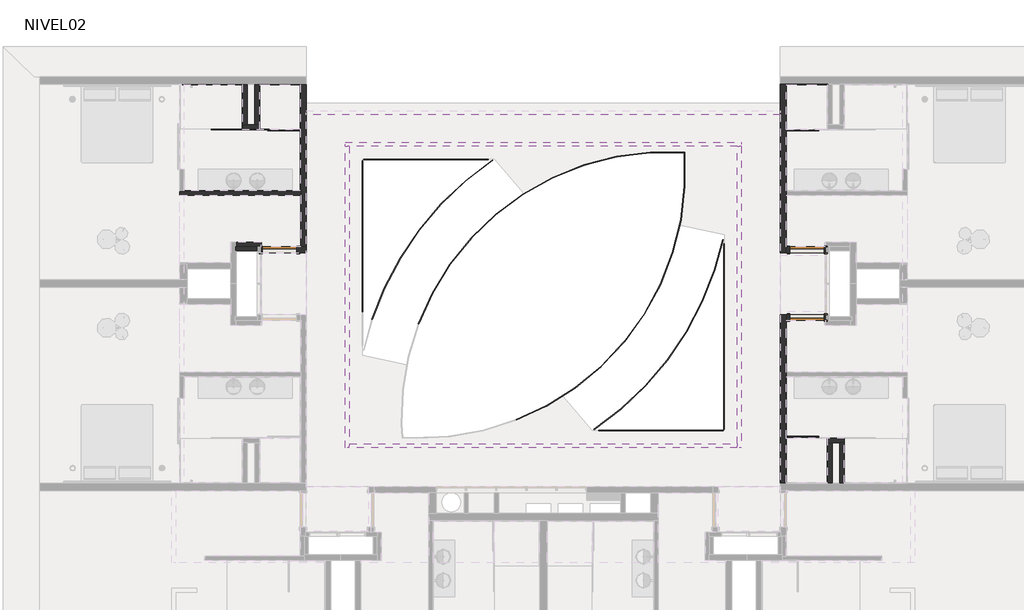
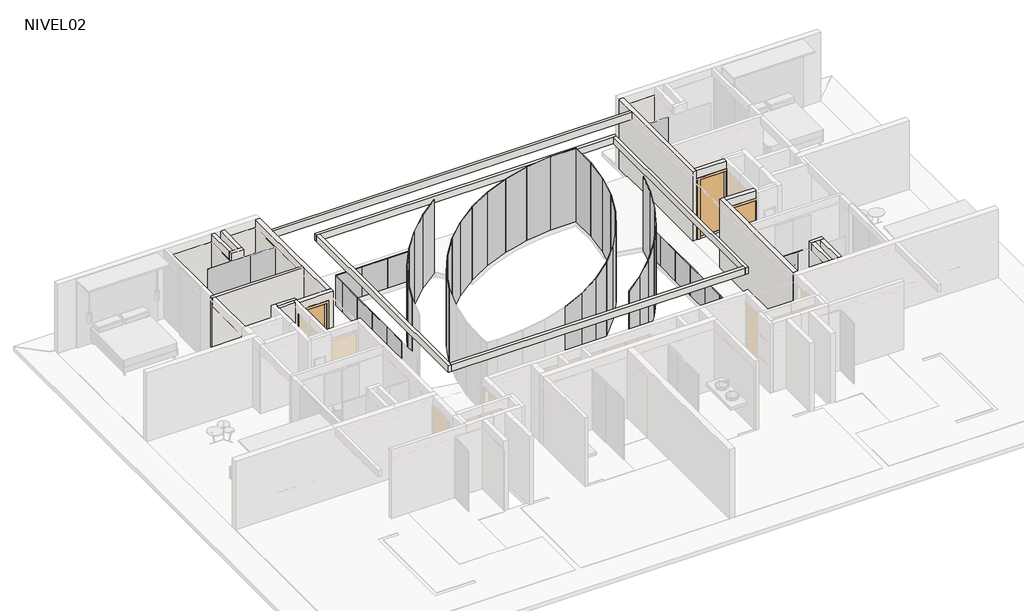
# One storey, part 6 of 9: 56 plates, 31 walls, 3 doors.
"""IFC4 building model written with IfcOpenShell, lengths in millimetres."""

from ifc_helpers import new_model, si_unit, frame, origin, place, context, project, spatial, polyline, outline, extrude, faceted_brep, transform, mapped, element, save
from components import m_single_flush_910x_224_a4f79d59, m_single_flush_910x_224_d199ccfa, panel_corredera_cr_panel_corredera_1cb9417a, panel_corredera_cr_panel_corredera_99e605cf, system_panel_5ccbd7a3, system_panel_34dc83f9, system_panel_bb99d6db, system_panel_8f9a12f6, system_panel_d16f8cfc, system_panel_c363a63a, system_panel_cr_shower_402713e2

model = new_model("IFC4")

# Units and contexts
model_context = context("Model", 3, world=origin())
ifc_project = project(units=[si_unit("LENGTHUNIT", "METRE", prefix="MILLI")], contexts=[model_context])

# Site, building, storey
site = spatial("IfcSite", under=ifc_project)
building = spatial("IfcBuilding", under=site)
storey = spatial("IfcBuildingStorey", under=building, Name="NIVEL02", Elevation=2500.0)

# Doors
placement = place(None, origin())
m_single_flush_910x_224_shape = m_single_flush_910x_224_a4f79d59(model_context)
element("IfcDoor", 1, ObjectType="M_Single-Flush : 910x 224", at=placement, inside=storey, context=model_context, shape_type="MappedRepresentation", body=[
    mapped(m_single_flush_910x_224_shape, transform((-14191.0934748, 6033.9139241, 2500.0), x_axis=(1.0, 0.0, 0.0), y_axis=(0.0, 1.0, 0.0), z_axis=(0.0, 0.0, 1.0))),
])
element("IfcDoor", 2, ObjectType="M_Single-Flush : 910x 224", at=placement, inside=storey, context=model_context, shape_type="MappedRepresentation", body=[
    mapped(m_single_flush_910x_224_shape, transform((-176.0934748, 4233.9139241, 2500.0), x_axis=(-1.0, 0.0, 0.0), y_axis=(0.0, -1.0, 0.0), z_axis=(0.0, 0.0, 1.0))),
])
m_single_flush_910x_224_2_shape = m_single_flush_910x_224_d199ccfa(model_context)
element("IfcDoor", 3, ObjectType="M_Single-Flush : 910x 224", at=placement, inside=storey, context=model_context, shape_type="MappedRepresentation", body=[
    mapped(m_single_flush_910x_224_2_shape, transform((-176.0934748, 6033.9139241, 2500.0), x_axis=(-1.0, 0.0, 0.0), y_axis=(0.0, -1.0, 0.0), z_axis=(0.0, 0.0, 1.0))),
])

# Plates
panel_corredera_cr_panel_corredera_shape = panel_corredera_cr_panel_corredera_1cb9417a(model_context)
element("IfcPlate", 4, ObjectType="PANEL CORREDERA : CR_PANEL CORREDERA", at=placement, inside=storey, context=model_context, shape_type="MappedRepresentation", body=[
    mapped(panel_corredera_cr_panel_corredera_shape, transform((-372.2601415, 9233.9139241, 2500.0), x_axis=(1.0, 0.0, 0.0), y_axis=(0.0, 1.0, 0.0), z_axis=(0.0, 0.0, 1.0))),
])
panel_corredera_cr_panel_corredera_2_shape = panel_corredera_cr_panel_corredera_99e605cf(model_context)
element("IfcPlate", 5, ObjectType="PANEL CORREDERA : CR_PANEL CORREDERA", at=placement, inside=storey, context=model_context, shape_type="MappedRepresentation", body=[
    mapped(panel_corredera_cr_panel_corredera_2_shape, transform((-13994.9268082, 9233.9139241, 2500.0), x_axis=(-1.0, 0.0, 0.0), y_axis=(0.0, -1.0, 0.0), z_axis=(0.0, 0.0, 1.0))),
])
element("IfcPlate", 6, ObjectType="PANEL CORREDERA : CR_PANEL CORREDERA", at=placement, inside=storey, context=model_context, shape_type="MappedRepresentation", body=[
    mapped(panel_corredera_cr_panel_corredera_2_shape, transform((-372.2601415, 1033.9139241, 2500.0), x_axis=(1.0, 0.0, 0.0), y_axis=(0.0, 1.0, 0.0), z_axis=(0.0, 0.0, 1.0))),
])
system_panel_shape = system_panel_5ccbd7a3(model_context)
element("IfcPlate", 7, ObjectType="System Panel : CR-BARANDA", at=placement, inside=storey, context=model_context, shape_type="MappedRepresentation", body=[
    mapped(system_panel_shape, transform((-2383.5934748, 5738.757085, 2500.0), x_axis=(0.0, -1.0, 0.0), y_axis=(1.0, 0.0, 0.0), z_axis=(0.0, 0.0, 1.0))),
])
element("IfcPlate", 8, ObjectType="System Panel : CR-BARANDA", at=placement, inside=storey, context=model_context, shape_type="MappedRepresentation", body=[
    mapped(system_panel_shape, transform((-2859.843475, 1233.9139241, 2500.0), x_axis=(-1.0, 0.0, 0.0), y_axis=(0.0, -1.0, 0.0), z_axis=(0.0, 0.0, 1.0))),
])
element("IfcPlate", 9, ObjectType="System Panel : CR-BARANDA", at=placement, inside=storey, context=model_context, shape_type="MappedRepresentation", body=[
    mapped(system_panel_shape, transform((-11507.3434747, 8433.9139241, 2500.0), x_axis=(1.0, 0.0, 0.0), y_axis=(0.0, 1.0, 0.0), z_axis=(0.0, 0.0, 1.0))),
])
element("IfcPlate", 10, ObjectType="System Panel : CR-BARANDA", at=placement, inside=storey, context=model_context, shape_type="MappedRepresentation", body=[
    mapped(system_panel_shape, transform((-3759.8434752, 1233.9139241, 2500.0), x_axis=(-1.0, 0.0, 0.0), y_axis=(0.0, -1.0, 0.0), z_axis=(0.0, 0.0, 1.0))),
])
element("IfcPlate", 11, ObjectType="System Panel : CR-BARANDA", at=placement, inside=storey, context=model_context, shape_type="MappedRepresentation", body=[
    mapped(system_panel_shape, transform((-4659.8434752, 1233.9139241, 2500.0), x_axis=(-1.0, 0.0, 0.0), y_axis=(0.0, -1.0, 0.0), z_axis=(0.0, 0.0, 1.0))),
])
element("IfcPlate", 12, ObjectType="System Panel : CR-BARANDA", at=placement, inside=storey, context=model_context, shape_type="MappedRepresentation", body=[
    mapped(system_panel_shape, transform((-2383.5934748, 4838.7570848, 2500.0), x_axis=(0.0, -1.0, 0.0), y_axis=(1.0, 0.0, 0.0), z_axis=(0.0, 0.0, 1.0))),
])
element("IfcPlate", 13, ObjectType="System Panel : CR-BARANDA", at=placement, inside=storey, context=model_context, shape_type="MappedRepresentation", body=[
    mapped(system_panel_shape, transform((-2383.5934748, 3938.7570848, 2500.0), x_axis=(0.0, -1.0, 0.0), y_axis=(1.0, 0.0, 0.0), z_axis=(0.0, 0.0, 1.0))),
])
element("IfcPlate", 14, ObjectType="System Panel : CR-BARANDA", at=placement, inside=storey, context=model_context, shape_type="MappedRepresentation", body=[
    mapped(system_panel_shape, transform((-2383.5934748, 3038.7570848, 2500.0), x_axis=(0.0, -1.0, 0.0), y_axis=(1.0, 0.0, 0.0), z_axis=(0.0, 0.0, 1.0))),
])
element("IfcPlate", 15, ObjectType="System Panel : CR-BARANDA", at=placement, inside=storey, context=model_context, shape_type="MappedRepresentation", body=[
    mapped(system_panel_shape, transform((-2383.5934748, 2138.7570848, 2500.0), x_axis=(0.0, -1.0, 0.0), y_axis=(1.0, 0.0, 0.0), z_axis=(0.0, 0.0, 1.0))),
])
element("IfcPlate", 16, ObjectType="System Panel : CR-BARANDA", at=placement, inside=storey, context=model_context, shape_type="MappedRepresentation", body=[
    mapped(system_panel_shape, transform((-10607.3434745, 8433.9139241, 2500.0), x_axis=(1.0, 0.0, 0.0), y_axis=(0.0, 1.0, 0.0), z_axis=(0.0, 0.0, 1.0))),
])
element("IfcPlate", 17, ObjectType="System Panel : CR-BARANDA", at=placement, inside=storey, context=model_context, shape_type="MappedRepresentation", body=[
    mapped(system_panel_shape, transform((-9707.3434745, 8433.9139241, 2500.0), x_axis=(1.0, 0.0, 0.0), y_axis=(0.0, 1.0, 0.0), z_axis=(0.0, 0.0, 1.0))),
])
element("IfcPlate", 18, ObjectType="System Panel : CR-BARANDA", at=placement, inside=storey, context=model_context, shape_type="MappedRepresentation", body=[
    mapped(system_panel_shape, transform((-11983.5934748, 4829.0707633, 2500.0), x_axis=(0.0, 1.0, 0.0), y_axis=(-1.0, 0.0, 0.0), z_axis=(0.0, 0.0, 1.0))),
])
element("IfcPlate", 19, ObjectType="System Panel : CR-BARANDA", at=placement, inside=storey, context=model_context, shape_type="MappedRepresentation", body=[
    mapped(system_panel_shape, transform((-11983.5934748, 5729.0707633, 2500.0), x_axis=(0.0, 1.0, 0.0), y_axis=(-1.0, 0.0, 0.0), z_axis=(0.0, 0.0, 1.0))),
])
element("IfcPlate", 20, ObjectType="System Panel : CR-BARANDA", at=placement, inside=storey, context=model_context, shape_type="MappedRepresentation", body=[
    mapped(system_panel_shape, transform((-11983.5934748, 6629.0707633, 2500.0), x_axis=(0.0, 1.0, 0.0), y_axis=(-1.0, 0.0, 0.0), z_axis=(0.0, 0.0, 1.0))),
])
element("IfcPlate", 21, ObjectType="System Panel : CR-BARANDA", at=placement, inside=storey, context=model_context, shape_type="MappedRepresentation", body=[
    mapped(system_panel_shape, transform((-11983.5934748, 7529.0707633, 2500.0), x_axis=(0.0, 1.0, 0.0), y_axis=(-1.0, 0.0, 0.0), z_axis=(0.0, 0.0, 1.0))),
])
system_panel_2_shape = system_panel_34dc83f9(model_context)
element("IfcPlate", 22, ObjectType="System Panel : CR-BARANDA", at=placement, inside=storey, context=model_context, shape_type="MappedRepresentation", body=[
    mapped(system_panel_2_shape, transform((-5412.343475, 1233.9139241, 2500.0), x_axis=(-1.0, 0.0, 0.0), y_axis=(0.0, -1.0, 0.0), z_axis=(0.0, 0.0, 1.0))),
])
element("IfcPlate", 23, ObjectType="System Panel : CR-BARANDA", at=placement, inside=storey, context=model_context, shape_type="MappedRepresentation", body=[
    mapped(system_panel_2_shape, transform((-8954.8434747, 8433.9139241, 2500.0), x_axis=(1.0, 0.0, 0.0), y_axis=(0.0, 1.0, 0.0), z_axis=(0.0, 0.0, 1.0))),
])
system_panel_3_shape = system_panel_bb99d6db(model_context)
element("IfcPlate", 24, ObjectType="System Panel : CR-BARANDA", at=placement, inside=storey, context=model_context, shape_type="MappedRepresentation", body=[
    mapped(system_panel_3_shape, transform((-2383.5934748, 1478.757085, 2500.0), x_axis=(0.0, -1.0, 0.0), y_axis=(1.0, 0.0, 0.0), z_axis=(0.0, 0.0, 1.0))),
])
element("IfcPlate", 25, ObjectType="System Panel : CR-BARANDA", at=placement, inside=storey, context=model_context, shape_type="MappedRepresentation", body=[
    mapped(system_panel_3_shape, transform((-11983.5934748, 8189.0707631, 2500.0), x_axis=(0.0, 1.0, 0.0), y_axis=(-1.0, 0.0, 0.0), z_axis=(0.0, 0.0, 1.0))),
])
system_panel_4_shape = system_panel_8f9a12f6(model_context)
element("IfcPlate", 26, ObjectType="System Panel : CR-BARANDA", at=placement, inside=storey, context=model_context, shape_type="MappedRepresentation", body=[
    mapped(system_panel_4_shape, transform((-3889.1158289, 8621.3139577, 2500.0), x_axis=(-0.9999985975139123, 0.0016748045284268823, 0.0), y_axis=(-0.0016748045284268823, -0.9999985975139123, 0.0), z_axis=(0.0, 0.0, 1.0))),
])
system_panel_5_shape = system_panel_d16f8cfc(model_context)
element("IfcPlate", 27, ObjectType="System Panel : CR-BARANDA", at=placement, inside=storey, context=model_context, shape_type="MappedRepresentation", body=[
    mapped(system_panel_5_shape, transform((-4785.5416487, 8565.4687941, 2500.0), x_axis=(-0.9920587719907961, -0.1257751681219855, 0.0), y_axis=(0.1257751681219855, -0.9920587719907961, 0.0), z_axis=(0.0, 0.0, 1.0))),
])
element("IfcPlate", 28, ObjectType="System Panel : CR-BARANDA", at=placement, inside=storey, context=model_context, shape_type="MappedRepresentation", body=[
    mapped(system_panel_5_shape, transform((-5667.541953, 8395.8415861, 2500.0), x_axis=(-0.9679419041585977, -0.25117418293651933, 0.0), y_axis=(0.25117418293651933, -0.9679419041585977, 0.0), z_axis=(0.0, 0.0, 1.0))),
])
element("IfcPlate", 29, ObjectType="System Panel : CR-BARANDA", at=placement, inside=storey, context=model_context, shape_type="MappedRepresentation", body=[
    mapped(system_panel_5_shape, transform((-6520.7343753, 8115.1983662, 2500.0), x_axis=(-0.9280412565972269, -0.37247741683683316, 0.0), y_axis=(0.37247741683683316, -0.9280412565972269, 0.0), z_axis=(0.0, 0.0, 1.0))),
])
element("IfcPlate", 30, ObjectType="System Panel : CR-BARANDA", at=placement, inside=storey, context=model_context, shape_type="MappedRepresentation", body=[
    mapped(system_panel_5_shape, transform((-7331.2063026, 7728.1154532, 2500.0), x_axis=(-0.8730074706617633, -0.4877068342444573, 0.0), y_axis=(0.4877068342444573, -0.8730074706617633, 0.0), z_axis=(0.0, 0.0, 1.0))),
])
element("IfcPlate", 31, ObjectType="System Panel : CR-BARANDA", at=placement, inside=storey, context=model_context, shape_type="MappedRepresentation", body=[
    mapped(system_panel_5_shape, transform((-8085.741745, 7240.9048287, 2500.0), x_axis=(-0.8037379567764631, -0.5949834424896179, 0.0), y_axis=(0.5949834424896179, -0.8037379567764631, 0.0), z_axis=(0.0, 0.0, 1.0))),
])
element("IfcPlate", 32, ObjectType="System Panel : CR-BARANDA", at=placement, inside=storey, context=model_context, shape_type="MappedRepresentation", body=[
    mapped(system_panel_5_shape, transform((-8772.0368429, 6661.5112103, 2500.0), x_axis=(-0.7213622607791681, -0.6925579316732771, 0.0), y_axis=(0.6925579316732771, -0.7213622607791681, 0.0), z_axis=(0.0, 0.0, 1.0))),
])
element("IfcPlate", 33, ObjectType="System Panel : CR-BARANDA", at=placement, inside=storey, context=model_context, shape_type="MappedRepresentation", body=[
    mapped(system_panel_5_shape, transform((-9378.9005004, 5999.3825011, 2500.0), x_axis=(-0.6272236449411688, -0.7788391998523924, 0.0), y_axis=(0.7788391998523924, -0.6272236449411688, 0.0), z_axis=(0.0, 0.0, 1.0))),
])
element("IfcPlate", 34, ObjectType="System Panel : CR-BARANDA", at=placement, inside=storey, context=model_context, shape_type="MappedRepresentation", body=[
    mapped(system_panel_5_shape, transform((-9896.4368735, 5265.3157269, 2500.0), x_axis=(-0.5228571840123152, -0.8524202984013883, 0.0), y_axis=(0.8524202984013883, -0.5228571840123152, 0.0), z_axis=(0.0, 0.0, 1.0))),
])
element("IfcPlate", 35, ObjectType="System Panel : CR-BARANDA", at=placement, inside=storey, context=model_context, shape_type="MappedRepresentation", body=[
    mapped(system_panel_5_shape, transform((-10316.2067363, 4471.2809741, 2500.0), x_axis=(-0.40996473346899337, -0.9121013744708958, 0.0), y_axis=(0.9121013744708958, -0.40996473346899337, 0.0), z_axis=(0.0, 0.0, 1.0))),
])
element("IfcPlate", 36, ObjectType="System Panel : CR-BARANDA", at=placement, inside=storey, context=model_context, shape_type="MappedRepresentation", body=[
    mapped(system_panel_4_shape, transform((-3433.3235969, 8170.5975795, 2500.0), x_axis=(0.012873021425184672, -0.9999171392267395, 0.0), y_axis=(0.9999171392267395, 0.012873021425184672, 0.0), z_axis=(0.0, 0.0, 1.0))),
])
element("IfcPlate", 37, ObjectType="System Panel : CR-BARANDA", at=placement, inside=storey, context=model_context, shape_type="MappedRepresentation", body=[
    mapped(system_panel_4_shape, transform((-5476.4920391, 1528.1257546, 2500.0), x_axis=(0.7955573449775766, 0.6058782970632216, 0.0), y_axis=(-0.6058782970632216, 0.7955573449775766, 0.0), z_axis=(0.0, 0.0, 1.0))),
])
element("IfcPlate", 38, ObjectType="System Panel : CR-BARANDA", at=placement, inside=storey, context=model_context, shape_type="MappedRepresentation", body=[
    mapped(system_panel_4_shape, transform((-8888.7580194, 8141.1767332, 2500.0), x_axis=(-0.7957364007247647, -0.6056431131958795, 0.0), y_axis=(0.6056431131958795, -0.7957364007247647, 0.0), z_axis=(0.0, 0.0, 1.0))),
])
element("IfcPlate", 39, ObjectType="System Panel : CR-BARANDA", at=placement, inside=storey, context=model_context, shape_type="MappedRepresentation", body=[
    mapped(system_panel_5_shape, transform((-3479.1267798, 7273.6025956, 2500.0), x_axis=(-0.11465787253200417, -0.9934050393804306, 0.0), y_axis=(0.9934050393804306, -0.11465787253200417, 0.0), z_axis=(0.0, 0.0, 1.0))),
])
element("IfcPlate", 40, ObjectType="System Panel : CR-BARANDA", at=placement, inside=storey, context=model_context, shape_type="MappedRepresentation", body=[
    mapped(system_panel_5_shape, transform((-3638.8664144, 6389.7580529, 2500.0), x_axis=(-0.2403190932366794, -0.9706939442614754, 0.0), y_axis=(0.9706939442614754, -0.2403190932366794, 0.0), z_axis=(0.0, 0.0, 1.0))),
])
element("IfcPlate", 41, ObjectType="System Panel : CR-BARANDA", at=placement, inside=storey, context=model_context, shape_type="MappedRepresentation", body=[
    mapped(system_panel_5_shape, transform((-3909.9377002, 5533.4763911, 2500.0), x_axis=(-0.3620615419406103, -0.9321541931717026, 0.0), y_axis=(0.9321541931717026, -0.3620615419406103, 0.0), z_axis=(0.0, 0.0, 1.0))),
])
element("IfcPlate", 42, ObjectType="System Panel : CR-BARANDA", at=placement, inside=storey, context=model_context, shape_type="MappedRepresentation", body=[
    mapped(system_panel_5_shape, transform((-4287.9204035, 4718.720598, 2500.0), x_axis=(-0.4779000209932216, -0.87841423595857, 0.0), y_axis=(0.87841423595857, -0.4779000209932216, 0.0), z_axis=(0.0, 0.0, 1.0))),
])
element("IfcPlate", 43, ObjectType="System Panel : CR-BARANDA", at=placement, inside=storey, context=model_context, shape_type="MappedRepresentation", body=[
    mapped(system_panel_5_shape, transform((-4766.6509357, 3958.7765185, 2500.0), x_axis=(-0.5859456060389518, -0.8103503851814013, 0.0), y_axis=(0.8103503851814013, -0.5859456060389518, 0.0), z_axis=(0.0, 0.0, 1.0))),
])
element("IfcPlate", 44, ObjectType="System Panel : CR-BARANDA", at=placement, inside=storey, context=model_context, shape_type="MappedRepresentation", body=[
    mapped(system_panel_5_shape, transform((-5338.32286, 3266.0362082, 2500.0), x_axis=(-0.6844364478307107, -0.7290725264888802, 0.0), y_axis=(0.7290725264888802, -0.6844364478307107, 0.0), z_axis=(0.0, 0.0, 1.0))),
])
element("IfcPlate", 45, ObjectType="System Panel : CR-BARANDA", at=placement, inside=storey, context=model_context, shape_type="MappedRepresentation", body=[
    mapped(system_panel_5_shape, transform((-5993.6141873, 2651.7958622, 2500.0), x_axis=(-0.7717665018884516, -0.6359060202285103, 0.0), y_axis=(0.6359060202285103, -0.7717665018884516, 0.0), z_axis=(0.0, 0.0, 1.0))),
])
element("IfcPlate", 46, ObjectType="System Panel : CR-BARANDA", at=placement, inside=storey, context=model_context, shape_type="MappedRepresentation", body=[
    mapped(system_panel_5_shape, transform((-6721.8393861, 2126.0716129, 2500.0), x_axis=(-0.8465117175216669, -0.5323700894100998, 0.0), y_axis=(0.5323700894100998, -0.8465117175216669, 0.0), z_axis=(0.0, 0.0, 1.0))),
])
element("IfcPlate", 47, ObjectType="System Panel : CR-BARANDA", at=placement, inside=storey, context=model_context, shape_type="MappedRepresentation", body=[
    mapped(system_panel_5_shape, transform((-7511.1236256, 1697.4362017, 2500.0), x_axis=(-0.9074532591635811, -0.42015304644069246, 0.0), y_axis=(0.42015304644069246, -0.9074532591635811, 0.0), z_axis=(0.0, 0.0, 1.0))),
])
element("IfcPlate", 48, ObjectType="System Panel : CR-BARANDA", at=placement, inside=storey, context=model_context, shape_type="MappedRepresentation", body=[
    mapped(system_panel_5_shape, transform((-4792.328012, 2110.7993037, 2500.0), x_axis=(0.724807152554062, 0.6889518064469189, 0.0), y_axis=(-0.6889518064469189, 0.724807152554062, 0.0), z_axis=(0.0, 0.0, 1.0))),
])
element("IfcPlate", 49, ObjectType="System Panel : CR-BARANDA", at=placement, inside=storey, context=model_context, shape_type="MappedRepresentation", body=[
    mapped(system_panel_5_shape, transform((-4175.7227206, 2764.5475642, 2500.0), x_axis=(0.6454268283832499, 0.7638221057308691, 0.0), y_axis=(-0.7638221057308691, 0.6454268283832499, 0.0), z_axis=(0.0, 0.0, 1.0))),
])
element("IfcPlate", 50, ObjectType="System Panel : CR-BARANDA", at=placement, inside=storey, context=model_context, shape_type="MappedRepresentation", body=[
    mapped(system_panel_5_shape, transform((-3634.0179559, 3481.5864902, 2500.0), x_axis=(0.5583615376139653, 0.8295977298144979, 0.0), y_axis=(-0.8295977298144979, 0.5583615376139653, 0.0), z_axis=(0.0, 0.0, 1.0))),
])
element("IfcPlate", 51, ObjectType="System Panel : CR-BARANDA", at=placement, inside=storey, context=model_context, shape_type="MappedRepresentation", body=[
    mapped(system_panel_5_shape, transform((-3173.6636869, 4253.3784444, 2500.0), x_axis=(0.4646479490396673, 0.8854955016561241, 0.0), y_axis=(-0.8854955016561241, 0.4646479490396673, 0.0), z_axis=(0.0, 0.0, 1.0))),
])
element("IfcPlate", 52, ObjectType="System Panel : CR-BARANDA", at=placement, inside=storey, context=model_context, shape_type="MappedRepresentation", body=[
    mapped(system_panel_5_shape, transform((-2800.1412587, 5070.7338561, 2500.0), x_axis=(0.36540189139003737, 0.9308498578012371, 0.0), y_axis=(-0.9308498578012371, 0.36540189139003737, 0.0), z_axis=(0.0, 0.0, 1.0))),
])
element("IfcPlate", 53, ObjectType="System Panel : CR-BARANDA", at=placement, inside=storey, context=model_context, shape_type="MappedRepresentation", body=[
    mapped(system_panel_5_shape, transform((-9573.0942482, 7558.7054405, 2500.0), x_axis=(-0.7250107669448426, -0.6887375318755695, 0.0), y_axis=(0.6887375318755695, -0.7250107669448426, 0.0), z_axis=(0.0, 0.0, 1.0))),
])
element("IfcPlate", 54, ObjectType="System Panel : CR-BARANDA", at=placement, inside=storey, context=model_context, shape_type="MappedRepresentation", body=[
    mapped(system_panel_5_shape, transform((-10189.892753, 6905.1394698, 2500.0), x_axis=(-0.6456525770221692, -0.7636312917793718, 0.0), y_axis=(0.7636312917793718, -0.6456525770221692, 0.0), z_axis=(0.0, 0.0, 1.0))),
])
element("IfcPlate", 55, ObjectType="System Panel : CR-BARANDA", at=placement, inside=storey, context=model_context, shape_type="MappedRepresentation", body=[
    mapped(system_panel_5_shape, transform((-10731.8094423, 6188.2606967, 2500.0), x_axis=(-0.558606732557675, -0.8294326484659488, 0.0), y_axis=(0.8294326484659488, -0.558606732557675, 0.0), z_axis=(0.0, 0.0, 1.0))),
])
element("IfcPlate", 56, ObjectType="System Panel : CR-BARANDA", at=placement, inside=storey, context=model_context, shape_type="MappedRepresentation", body=[
    mapped(system_panel_5_shape, transform((-11192.3918238, 5416.6048516, 2500.0), x_axis=(-0.4649096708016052, -0.8853581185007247, 0.0), y_axis=(0.8853581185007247, -0.4649096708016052, 0.0), z_axis=(0.0, 0.0, 1.0))),
])
element("IfcPlate", 57, ObjectType="System Panel : CR-BARANDA", at=placement, inside=storey, context=model_context, shape_type="MappedRepresentation", body=[
    mapped(system_panel_5_shape, transform((-11566.1558363, 4599.3598844, 2500.0), x_axis=(-0.36567702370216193, -0.9307418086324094, 0.0), y_axis=(0.9307418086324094, -0.36567702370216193, 0.0), z_axis=(0.0, 0.0, 1.0))),
])
system_panel_6_shape = system_panel_c363a63a(model_context)
element("IfcPlate", 58, ObjectType="System Panel : CR-BARANDA", at=placement, inside=storey, context=model_context, shape_type="MappedRepresentation", body=[
    mapped(system_panel_6_shape, transform((-2523.9277538, 5896.1430611, 2500.0), x_axis=(0.2651295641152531, 0.9642127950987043, 0.0), y_axis=(-0.9642127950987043, 0.2651295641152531, 0.0), z_axis=(0.0, 0.0, 1.0))),
])
system_panel_cr_shower_shape = system_panel_cr_shower_402713e2(model_context)
element("IfcPlate", 59, ObjectType="System Panel : CR-SHOWER", at=placement, inside=storey, context=model_context, shape_type="MappedRepresentation", body=[
    mapped(system_panel_cr_shower_shape, transform((-15178.9268082, 9233.9139241, 2500.0), x_axis=(1.0, 0.0, 0.0), y_axis=(0.0, 1.0, 0.0), z_axis=(0.0, 0.0, 1.0))),
])

# Walls
element("IfcWall", 60, ObjectType="SCV.TI.A.150.120.212.47.1", at=placement, inside=storey, context=model_context, shape_type="Brep", body=[
    faceted_brep([(-733.5934748, -166.0860759, 2480.0), (-733.5934748, 2673.9139241, 2480.0), (-733.5934748, 2783.9139241, 2480.0), (-733.5934748, 4158.9139241, 2480.0), (-733.5934748, 4308.9139241, 2480.0), (-733.5934748, 4308.9139241, 5050.0), (-733.5934748, 4158.9139241, 5050.0), (-733.5934748, 2783.9139241, 5050.0), (-733.5934748, 2673.9139241, 5050.0), (-733.5934748, -166.0860759, 5050.0), (-883.5934748, -166.0860759, 2480.0), (-883.5934748, -166.0860759, 5050.0), (-883.5934748, 4308.9139241, 5050.0), (-883.5934748, 4308.9139241, 2480.0)], [[[0, 1, 2, 3, 4, 5, 6, 7, 8, 9]], [[10, 11, 12, 13]], [[4, 3, 2, 1, 0, 10, 13]], [[9, 8, 7, 6, 5, 12, 11]], [[0, 9, 11, 10]], [[5, 4, 13, 12]]]),
])
element("IfcWall", 61, ObjectType="SCV.TI.A.150.120.212.47.1", at=placement, inside=storey, context=model_context, shape_type="Brep", body=[
    faceted_brep([(-13483.5934748, 6108.9139241, 2480.0), (-13633.5934748, 6108.9139241, 2480.0), (-14673.5934748, 6108.9139241, 2480.0), (-14673.5934748, 6108.9139241, 5050.0), (-13633.5934748, 6108.9139241, 5050.0), (-13483.5934748, 6108.9139241, 5050.0), (-14648.5934748, 6108.9139241, 2500.0), (-13733.5934748, 6108.9139241, 2500.0), (-13733.5934748, 6108.9139241, 4700.0), (-14648.5934748, 6108.9139241, 4700.0), (-14673.5934748, 5958.9139241, 2480.0), (-13483.5934748, 5958.9139241, 2480.0), (-13483.5934748, 5958.9139241, 5050.0), (-14673.5934748, 5958.9139241, 5050.0), (-14673.5934748, 5958.9139241, 4740.0), (-14673.5934748, 5958.9139241, 2500.0), (-13733.5934748, 5958.9139241, 2500.0), (-14648.5934748, 5958.9139241, 2500.0), (-14648.5934748, 5958.9139241, 4700.0), (-13733.5934748, 5958.9139241, 4700.0)], [[[0, 1, 2, 3, 4, 5], [6, 7, 8, 9]], [[10, 11, 12, 13, 14, 15], [16, 17, 18, 19]], [[2, 1, 0, 11, 10]], [[5, 4, 3, 13, 12]], [[6, 17, 16, 7]], [[8, 19, 18, 9]], [[17, 6, 9, 18]], [[19, 8, 7, 16]], [[3, 2, 10, 15, 14, 13]], [[0, 5, 12, 11]]]),
])
element("IfcWall", 62, ObjectType="SCV.TI.A.110.090.143.47.1", at=placement, inside=storey, context=model_context, shape_type="Brep", body=[
    faceted_brep([(-13633.5934748, 7593.9139241, 2480.0), (-16738.5934748, 7593.9139241, 2480.0), (-16848.5934748, 7593.9139241, 2480.0), (-16848.5934748, 7593.9139241, 5050.0), (-16738.5934748, 7593.9139241, 5050.0), (-13633.5934748, 7593.9139241, 5050.0), (-13633.5934748, 7483.9139241, 2480.0), (-13633.5934748, 7483.9139241, 5050.0), (-16738.5934748, 7483.9139241, 5050.0), (-16848.5934748, 7483.9139241, 5050.0), (-16848.5934748, 7483.9139241, 4750.0), (-16848.5934748, 7483.9139241, 2480.0)], [[[0, 1, 2, 3, 4, 5]], [[6, 7, 8, 9, 10, 11]], [[2, 1, 0, 6, 11]], [[5, 4, 3, 9, 8, 7]], [[0, 5, 7, 6]], [[2, 11, 10, 9, 3]]]),
])
element("IfcWall", 63, ObjectType="SCV.TI.A.110.090.143.47.1", at=placement, inside=storey, context=model_context, shape_type="Brep", body=[
    faceted_brep([(-14673.5934748, 6233.9139241, 2480.0), (-15343.5934748, 6233.9139241, 2480.0), (-15343.5934748, 6233.9139241, 5050.0), (-14673.5934748, 6233.9139241, 5050.0), (-14673.5934748, 6123.9139241, 2480.0), (-14673.5934748, 6123.9139241, 5050.0), (-14783.5934748, 6123.9139241, 5050.0), (-15343.5934748, 6123.9139241, 5050.0), (-15343.5934748, 6123.9139241, 2480.0), (-14783.5934748, 6123.9139241, 2480.0)], [[[0, 1, 2, 3]], [[4, 5, 6, 7, 8, 9]], [[1, 0, 4, 9, 8]], [[3, 2, 7, 6, 5]], [[0, 3, 5, 4]], [[2, 1, 8, 7]]]),
])
element("IfcWall", 64, ObjectType="SCV.TI.A.120.120.122.46.2", at=placement, inside=storey, context=model_context, shape_type="SweptSolid", body=[
    extrude(outline(polyline([(-15173.5934748, 9353.9139241), (-15173.5934748, 10433.9139241), (-15053.5934748, 10433.9139241), (-15053.5934748, 9353.9139241), (-15173.5934748, 9353.9139241)])), frame((0.0, 0.0, 2480.0), z_axis=(0.0, 0.0, 1.0), x_axis=(1.0, 0.0, 0.0)), (0.0, 0.0, 1.0), 2570.0),
])
element("IfcWall", 65, ObjectType="SCV.TI.A.120.120.122.46.2", at=placement, inside=storey, context=model_context, shape_type="Brep", body=[
    faceted_brep([(-15173.5934748, 9233.9139241, 2480.0), (-14733.5934748, 9233.9139241, 2480.0), (-14733.5934748, 9233.9139241, 5050.0), (-15173.5934748, 9233.9139241, 5050.0), (-15173.5934748, 9353.9139241, 2480.0), (-15173.5934748, 9353.9139241, 5050.0), (-15053.5934748, 9353.9139241, 5050.0), (-14853.5934748, 9353.9139241, 5050.0), (-14733.5934748, 9353.9139241, 5050.0), (-14733.5934748, 9353.9139241, 2480.0), (-14853.5934748, 9353.9139241, 2480.0), (-15053.5934748, 9353.9139241, 2480.0)], [[[0, 1, 2, 3]], [[4, 5, 6, 7, 8, 9, 10, 11]], [[1, 0, 4, 11, 10, 9]], [[3, 2, 8, 7, 6, 5]], [[2, 1, 9, 8]], [[0, 3, 5, 4]]]),
])
element("IfcWall", 66, ObjectType="SCV.TI.A.120.120.122.46.2", at=placement, inside=storey, context=model_context, shape_type="SweptSolid", body=[
    extrude(outline(polyline([(-14733.5934748, 10433.9139241), (-14733.5934748, 9353.9139241), (-14853.5934748, 9353.9139241), (-14853.5934748, 10433.9139241), (-14733.5934748, 10433.9139241)])), frame((0.0, 0.0, 2480.0), z_axis=(0.0, 0.0, 1.0), x_axis=(1.0, 0.0, 0.0)), (0.0, 0.0, 1.0), 2570.0),
])
element("IfcWall", 67, ObjectType="REV-PORCELANATO_60*60", at=placement, inside=storey, context=model_context, shape_type="Brep", body=[
    faceted_brep([(-13633.5934748, 7603.9139241, 2520.0), (-13643.5934748, 7603.9139241, 2520.0), (-16728.5934748, 7603.9139241, 2520.0), (-16728.5934748, 7603.9139241, 4760.0), (-13643.5934748, 7603.9139241, 4760.0), (-13633.5934748, 7603.9139241, 4760.0), (-13633.5934748, 7593.9139241, 2520.0), (-13633.5934748, 7593.9139241, 4760.0), (-16728.5934748, 7593.9139241, 4760.0), (-16728.5934748, 7593.9139241, 2520.0)], [[[0, 1, 2, 3, 4, 5]], [[6, 7, 8, 9]], [[2, 1, 0, 6, 9]], [[5, 4, 3, 8, 7]], [[0, 5, 7, 6]], [[3, 2, 9, 8]]]),
])
element("IfcWall", 68, ObjectType="REV-PORCELANATO_60*60", at=placement, inside=storey, context=model_context, shape_type="Brep", body=[
    faceted_brep([(-13633.5934748, 7603.9139241, 2520.0), (-13633.5934748, 10433.9139241, 2520.0), (-13633.5934748, 10433.9139241, 4760.0), (-13633.5934748, 7603.9139241, 4760.0), (-13643.5934748, 7603.9139241, 2520.0), (-13643.5934748, 7603.9139241, 4760.0), (-13643.5934748, 10423.9139241, 4760.0), (-13643.5934748, 10433.9139241, 4760.0), (-13643.5934748, 10433.9139241, 2520.0), (-13643.5934748, 10423.9139241, 2520.0)], [[[0, 1, 2, 3]], [[4, 5, 6, 7, 8, 9]], [[1, 0, 4, 9, 8]], [[3, 2, 7, 6, 5]], [[2, 1, 8, 7]], [[0, 3, 5, 4]]]),
])
element("IfcWall", 69, ObjectType="REV-PORCELANATO_60*60", at=placement, inside=storey, context=model_context, shape_type="Brep", body=[
    faceted_brep([(-13643.5934748, 10433.9139241, 2520.0), (-14733.5934748, 10433.9139241, 2520.0), (-14733.5934748, 10433.9139241, 4760.0), (-13643.5934748, 10433.9139241, 4760.0), (-13643.5934748, 10423.9139241, 2520.0), (-13643.5934748, 10423.9139241, 4760.0), (-14723.5934748, 10423.9139241, 4760.0), (-14733.5934748, 10423.9139241, 4760.0), (-14733.5934748, 10423.9139241, 2520.0), (-14723.5934748, 10423.9139241, 2520.0)], [[[0, 1, 2, 3]], [[4, 5, 6, 7, 8, 9]], [[1, 0, 4, 9, 8]], [[3, 2, 7, 6, 5]], [[2, 1, 8, 7]], [[0, 3, 5, 4]]]),
])
element("IfcWall", 70, ObjectType="REV-PORCELANATO_60*60", at=placement, inside=storey, context=model_context, shape_type="SweptSolid", body=[
    extrude(outline(polyline([(-14723.5934748, 10423.9139241), (-14723.5934748, 9233.9139241), (-14733.5934748, 9233.9139241), (-14733.5934748, 10423.9139241), (-14723.5934748, 10423.9139241)])), frame((0.0, 0.0, 2520.0), z_axis=(0.0, 0.0, 1.0), x_axis=(1.0, 0.0, 0.0)), (0.0, 0.0, 1.0), 2240.0),
])
element("IfcWall", 71, ObjectType="REV-PORCELANATO_60*60", at=placement, inside=storey, context=model_context, shape_type="Brep", body=[
    faceted_brep([(-15173.5934748, 9233.9139241, 2500.0), (-15173.5934748, 10433.9139241, 2500.0), (-15173.5934748, 10433.9139241, 4760.0), (-15173.5934748, 9233.9139241, 4760.0), (-15183.5934748, 9233.9139241, 2500.0), (-15183.5934748, 9233.9139241, 4760.0), (-15183.5934748, 10423.9139241, 4760.0), (-15183.5934748, 10433.9139241, 4760.0), (-15183.5934748, 10433.9139241, 2500.0), (-15183.5934748, 10423.9139241, 2500.0)], [[[0, 1, 2, 3]], [[4, 5, 6, 7, 8, 9]], [[1, 0, 4, 9, 8]], [[3, 2, 7, 6, 5]], [[0, 3, 5, 4]], [[2, 1, 8, 7]]]),
])
element("IfcWall", 72, ObjectType="REV-PORCELANATO_60*60", at=placement, inside=storey, context=model_context, shape_type="SweptSolid", body=[
    extrude(outline(polyline([(-16793.5934748, 10433.9139241), (-15183.5934748, 10433.9139241), (-15183.5934748, 10423.9139241), (-16793.5934748, 10423.9139241), (-16793.5934748, 10433.9139241)])), frame((0.0, 0.0, 2500.0), z_axis=(0.0, 0.0, 1.0), x_axis=(1.0, 0.0, 0.0)), (0.0, 0.0, 1.0), 2260.0),
])
element("IfcWall", 73, ObjectType="SCV.TI.A.150.120.212.47.1", at=placement, inside=storey, context=model_context, shape_type="Brep", body=[
    faceted_brep([(-13483.5934748, 6108.9139241, 2480.0), (-13483.5934748, 10433.9139241, 2480.0), (-13483.5934748, 10433.9139241, 5050.0), (-13483.5934748, 9733.9139241, 5050.0), (-13483.5934748, 9623.9139241, 5050.0), (-13483.5934748, 6108.9139241, 5050.0), (-13633.5934748, 6108.9139241, 2480.0), (-13633.5934748, 6108.9139241, 5050.0), (-13633.5934748, 7483.9139241, 5050.0), (-13633.5934748, 7593.9139241, 5050.0), (-13633.5934748, 10433.9139241, 5050.0), (-13633.5934748, 10433.9139241, 2480.0), (-13633.5934748, 7593.9139241, 2480.0), (-13633.5934748, 7483.9139241, 2480.0)], [[[0, 1, 2, 3, 4, 5]], [[6, 7, 8, 9, 10, 11, 12, 13]], [[1, 0, 6, 13, 12, 11]], [[5, 4, 3, 2, 10, 9, 8, 7]], [[2, 1, 11, 10]], [[0, 5, 7, 6]]]),
])
element("IfcWall", 74, ObjectType="SCV.TI.A.150.120.212.47.1", at=placement, inside=storey, context=model_context, shape_type="Brep", body=[
    faceted_brep([(-733.5934748, 5958.9139241, 2480.0), (-733.5934748, 6108.9139241, 2480.0), (-733.5934748, 7483.9139241, 2480.0), (-733.5934748, 7593.9139241, 2480.0), (-733.5934748, 10433.9139241, 2480.0), (-733.5934748, 10433.9139241, 5050.0), (-733.5934748, 7593.9139241, 5050.0), (-733.5934748, 7483.9139241, 5050.0), (-733.5934748, 6108.9139241, 5050.0), (-733.5934748, 5958.9139241, 5050.0), (-883.5934748, 5958.9139241, 2480.0), (-883.5934748, 5958.9139241, 5050.0), (-883.5934748, 9623.9139241, 5050.0), (-883.5934748, 9733.9139241, 5050.0), (-883.5934748, 10433.9139241, 5050.0), (-883.5934748, 10433.9139241, 2480.0)], [[[0, 1, 2, 3, 4, 5, 6, 7, 8, 9]], [[10, 11, 12, 13, 14, 15]], [[4, 3, 2, 1, 0, 10, 15]], [[9, 8, 7, 6, 5, 14, 13, 12, 11]], [[5, 4, 15, 14]], [[0, 9, 11, 10]]]),
])
element("IfcWall", 75, ObjectType="SCV.TI.A.110.090.143.47.1 2", at=placement, inside=storey, context=model_context, shape_type="Brep", body=[
    faceted_brep([(-12443.5934748, 8893.9139241, 5050.0), (-1923.5934748, 8893.9139241, 5050.0), (-1923.5934748, 8893.9139241, 4805.0), (-12443.5934748, 8893.9139241, 4805.0), (-1923.5934748, 8783.9139241, 5050.0), (-2033.5934748, 8783.9139241, 5050.0), (-12333.5934748, 8783.9139241, 5050.0), (-12443.5934748, 8783.9139241, 5050.0), (-12443.5934748, 8783.9139241, 4805.0), (-12333.5934748, 8783.9139241, 4805.0), (-2033.5934748, 8783.9139241, 4805.0), (-1923.5934748, 8783.9139241, 4805.0)], [[[0, 1, 2, 3]], [[4, 5, 6, 7, 8, 9, 10, 11]], [[1, 0, 7, 6, 5, 4]], [[7, 0, 3, 8]], [[1, 4, 11, 2]], [[3, 2, 11, 10, 9, 8]]]),
])
element("IfcWall", 76, ObjectType="SCV.TI.A.110.090.143.47.1 2", at=placement, inside=storey, context=model_context, shape_type="Brep", body=[
    faceted_brep([(-12443.5934748, 773.9139241, 5050.0), (-12443.5934748, 8783.9139241, 5050.0), (-12443.5934748, 8783.9139241, 4805.0), (-12443.5934748, 773.9139241, 4805.0), (-12333.5934748, 8783.9139241, 5050.0), (-12333.5934748, 883.9139241, 5050.0), (-12333.5934748, 773.9139241, 5050.0), (-12333.5934748, 773.9139241, 4805.0), (-12333.5934748, 883.9139241, 4805.0), (-12333.5934748, 8783.9139241, 4805.0)], [[[0, 1, 2, 3]], [[4, 5, 6, 7, 8, 9]], [[1, 0, 6, 5, 4]], [[1, 4, 9, 2]], [[6, 0, 3, 7]], [[3, 2, 9, 8, 7]]]),
])
element("IfcWall", 77, ObjectType="SCV.TI.A.110.090.143.47.1 2", at=placement, inside=storey, context=model_context, shape_type="Brep", body=[
    faceted_brep([(-1923.5934748, 8783.9139241, 5050.0), (-1923.5934748, 773.9139241, 5050.0), (-1923.5934748, 773.9139241, 4805.0), (-1923.5934748, 8783.9139241, 4805.0), (-2033.5934748, 773.9139241, 5050.0), (-2033.5934748, 883.9139241, 5050.0), (-2033.5934748, 8783.9139241, 5050.0), (-2033.5934748, 8783.9139241, 4805.0), (-2033.5934748, 883.9139241, 4805.0), (-2033.5934748, 773.9139241, 4805.0)], [[[0, 1, 2, 3]], [[4, 5, 6, 7, 8, 9]], [[1, 0, 6, 5, 4]], [[6, 0, 3, 7]], [[1, 4, 9, 2]], [[3, 2, 9, 8, 7]]]),
])
element("IfcWall", 78, ObjectType="SCV.TI.A.110.090.143.47.1 2", at=placement, inside=storey, context=model_context, shape_type="SweptSolid", body=[
    extrude(outline(polyline([(-13483.5934748, 9733.9139241), (-883.5934748, 9733.9139241), (-883.5934748, 9623.9139241), (-13483.5934748, 9623.9139241), (-13483.5934748, 9733.9139241)])), frame((0.0, 0.0, 4805.0), z_axis=(0.0, 0.0, 1.0), x_axis=(1.0, 0.0, 0.0)), (0.0, 0.0, 1.0), 245.0),
])
element("IfcWall", 79, ObjectType="SCV.TI.A.110.090.143.47.1 2", at=placement, inside=storey, context=model_context, shape_type="SweptSolid", body=[
    extrude(outline(polyline([(-2033.5934748, 773.9139241), (-12333.5934748, 773.9139241), (-12333.5934748, 883.9139241), (-2033.5934748, 883.9139241), (-2033.5934748, 773.9139241)])), frame((0.0, 0.0, 4805.0), z_axis=(0.0, 0.0, 1.0), x_axis=(1.0, 0.0, 0.0)), (0.0, 0.0, 1.0), 245.0),
])
element("IfcWall", 80, ObjectType="SCV.TI.A.110.090.143.47.1", at=placement, inside=storey, context=model_context, shape_type="Brep", body=[
    faceted_brep([(-14783.5934748, 6123.9139241, 2480.0), (-15343.5934748, 6123.9139241, 2480.0), (-15373.5934748, 6123.9139241, 2480.0), (-15373.5934748, 6123.9139241, 5050.0), (-15343.5934748, 6123.9139241, 5050.0), (-14783.5934748, 6123.9139241, 5050.0), (-14783.5934748, 6013.9139241, 2480.0), (-14783.5934748, 6013.9139241, 5050.0), (-15343.5934748, 6013.9139241, 5050.0), (-15373.5934748, 6013.9139241, 5050.0), (-15373.5934748, 6013.9139241, 2480.0), (-15343.5934748, 6013.9139241, 2480.0)], [[[0, 1, 2, 3, 4, 5]], [[6, 7, 8, 9, 10, 11]], [[2, 1, 0, 6, 11, 10]], [[3, 2, 10, 9]], [[5, 4, 3, 9, 8, 7]], [[0, 5, 7, 6]]]),
])
element("IfcWall", 81, ObjectType="SCV.TI.A.150.120.212.47.1", at=placement, inside=storey, context=model_context, shape_type="Brep", body=[
    faceted_brep([(-733.5934748, 5958.9139241, 2480.0), (306.4065252, 5958.9139241, 2480.0), (306.4065252, 5958.9139241, 2500.0), (306.4065252, 5958.9139241, 4740.0), (306.4065252, 5958.9139241, 5050.0), (-733.5934748, 5958.9139241, 5050.0), (281.4065252, 5958.9139241, 2500.0), (-633.5934748, 5958.9139241, 2500.0), (-633.5934748, 5958.9139241, 4700.0), (281.4065252, 5958.9139241, 4700.0), (306.4065252, 6108.9139241, 2480.0), (-733.5934748, 6108.9139241, 2480.0), (-733.5934748, 6108.9139241, 5050.0), (306.4065252, 6108.9139241, 5050.0), (-633.5934748, 6108.9139241, 2500.0), (281.4065252, 6108.9139241, 2500.0), (281.4065252, 6108.9139241, 4700.0), (-633.5934748, 6108.9139241, 4700.0)], [[[0, 1, 2, 3, 4, 5], [6, 7, 8, 9]], [[10, 11, 12, 13], [14, 15, 16, 17]], [[1, 0, 11, 10]], [[5, 4, 13, 12]], [[6, 15, 14, 7]], [[8, 17, 16, 9]], [[15, 6, 9, 16]], [[17, 8, 7, 14]], [[0, 5, 12, 11]], [[4, 3, 2, 1, 10, 13]]]),
])
element("IfcWall", 82, ObjectType="REV-PORCELANATO_60*60", at=placement, inside=storey, context=model_context, shape_type="Brep", body=[
    faceted_brep([(-723.5934748, 7603.9139241, 2520.0), (-723.5934748, 10423.9139241, 2520.0), (-723.5934748, 10433.9139241, 2520.0), (-723.5934748, 10433.9139241, 4760.0), (-723.5934748, 10423.9139241, 4760.0), (-723.5934748, 7603.9139241, 4760.0), (-733.5934748, 7603.9139241, 2520.0), (-733.5934748, 7603.9139241, 4760.0), (-733.5934748, 10433.9139241, 4760.0), (-733.5934748, 10433.9139241, 2520.0)], [[[0, 1, 2, 3, 4, 5]], [[6, 7, 8, 9]], [[2, 1, 0, 6, 9]], [[5, 4, 3, 8, 7]], [[3, 2, 9, 8]], [[0, 5, 7, 6]]]),
])
element("IfcWall", 83, ObjectType="REV-PORCELANATO_60*60", at=placement, inside=storey, context=model_context, shape_type="Brep", body=[
    faceted_brep([(-723.5934748, 10423.9139241, 2520.0), (356.4065252, 10423.9139241, 2520.0), (366.4065252, 10423.9139241, 2520.0), (366.4065252, 10423.9139241, 4760.0), (356.4065252, 10423.9139241, 4760.0), (-723.5934748, 10423.9139241, 4760.0), (-723.5934748, 10433.9139241, 2520.0), (-723.5934748, 10433.9139241, 4760.0), (366.4065252, 10433.9139241, 4760.0), (366.4065252, 10433.9139241, 2520.0)], [[[0, 1, 2, 3, 4, 5]], [[6, 7, 8, 9]], [[2, 1, 0, 6, 9]], [[5, 4, 3, 8, 7]], [[3, 2, 9, 8]], [[0, 5, 7, 6]]]),
])
element("IfcWall", 84, ObjectType="SCV.TI.A.150.120.212.47.1", at=placement, inside=storey, context=model_context, shape_type="Brep", body=[
    faceted_brep([(-733.5934748, 4158.9139241, 2480.0), (306.4065252, 4158.9139241, 2480.0), (306.4065252, 4158.9139241, 5050.0), (-733.5934748, 4158.9139241, 5050.0), (281.4065252, 4158.9139241, 2500.0), (-633.5934748, 4158.9139241, 2500.0), (-633.5934748, 4158.9139241, 4700.0), (281.4065252, 4158.9139241, 4700.0), (306.4065252, 4308.9139241, 2480.0), (-733.5934748, 4308.9139241, 2480.0), (-733.5934748, 4308.9139241, 5050.0), (306.4065252, 4308.9139241, 5050.0), (306.4065252, 4308.9139241, 4740.0), (306.4065252, 4308.9139241, 2500.0), (-633.5934748, 4308.9139241, 2500.0), (281.4065252, 4308.9139241, 2500.0), (281.4065252, 4308.9139241, 4700.0), (-633.5934748, 4308.9139241, 4700.0)], [[[0, 1, 2, 3], [4, 5, 6, 7]], [[8, 9, 10, 11, 12, 13], [14, 15, 16, 17]], [[1, 0, 9, 8]], [[3, 2, 11, 10]], [[4, 15, 14, 5]], [[6, 17, 16, 7]], [[15, 4, 7, 16]], [[17, 6, 5, 14]], [[0, 3, 10, 9]], [[2, 1, 8, 13, 12, 11]]]),
])
element("IfcWall", 85, ObjectType="SCV.TI.A.120.120.122.46.2", at=placement, inside=storey, context=model_context, shape_type="SweptSolid", body=[
    extrude(outline(polyline([(806.4065252, 913.9139241), (806.4065252, -166.0860759), (686.4065252, -166.0860759), (686.4065252, 913.9139241), (806.4065252, 913.9139241)])), frame((0.0, 0.0, 2480.0), z_axis=(0.0, 0.0, 1.0), x_axis=(1.0, 0.0, 0.0)), (0.0, 0.0, 1.0), 2570.0),
])
element("IfcWall", 86, ObjectType="SCV.TI.A.120.120.122.46.2", at=placement, inside=storey, context=model_context, shape_type="Brep", body=[
    faceted_brep([(806.4065252, 1033.9139241, 2480.0), (366.4065252, 1033.9139241, 2480.0), (366.4065252, 1033.9139241, 5050.0), (806.4065252, 1033.9139241, 5050.0), (806.4065252, 913.9139241, 2480.0), (806.4065252, 913.9139241, 5050.0), (686.4065252, 913.9139241, 5050.0), (486.4065252, 913.9139241, 5050.0), (366.4065252, 913.9139241, 5050.0), (366.4065252, 913.9139241, 2480.0), (486.4065252, 913.9139241, 2480.0), (686.4065252, 913.9139241, 2480.0)], [[[0, 1, 2, 3]], [[4, 5, 6, 7, 8, 9, 10, 11]], [[1, 0, 4, 11, 10, 9]], [[3, 2, 8, 7, 6, 5]], [[2, 1, 9, 8]], [[0, 3, 5, 4]]]),
])
element("IfcWall", 87, ObjectType="SCV.TI.A.120.120.122.46.2", at=placement, inside=storey, context=model_context, shape_type="SweptSolid", body=[
    extrude(outline(polyline([(366.4065252, -166.0860759), (366.4065252, 913.9139241), (486.4065252, 913.9139241), (486.4065252, -166.0860759), (366.4065252, -166.0860759)])), frame((0.0, 0.0, 2480.0), z_axis=(0.0, 0.0, 1.0), x_axis=(1.0, 0.0, 0.0)), (0.0, 0.0, 1.0), 2570.0),
])
element("IfcWall", 88, ObjectType="REV-PORCELANATO_60*60", at=placement, inside=storey, context=model_context, shape_type="Brep", body=[
    faceted_brep([(-733.5934748, 2663.9139241, 2520.0), (-733.5934748, -166.0860759, 2520.0), (-733.5934748, -166.0860759, 4760.0), (-733.5934748, 2663.9139241, 4760.0), (-723.5934748, 2663.9139241, 2520.0), (-723.5934748, 2663.9139241, 4760.0), (-723.5934748, -156.0860759, 4760.0), (-723.5934748, -166.0860759, 4760.0), (-723.5934748, -166.0860759, 2520.0), (-723.5934748, -156.0860759, 2520.0)], [[[0, 1, 2, 3]], [[4, 5, 6, 7, 8, 9]], [[1, 0, 4, 9, 8]], [[3, 2, 7, 6, 5]], [[2, 1, 8, 7]], [[0, 3, 5, 4]]]),
])
element("IfcWall", 89, ObjectType="REV-PORCELANATO_60*60", at=placement, inside=storey, context=model_context, shape_type="SweptSolid", body=[
    extrude(outline(polyline([(356.4065252, -156.0860759), (356.4065252, 1033.9139241), (366.4065252, 1033.9139241), (366.4065252, -156.0860759), (356.4065252, -156.0860759)])), frame((0.0, 0.0, 2520.0), z_axis=(0.0, 0.0, 1.0), x_axis=(1.0, 0.0, 0.0)), (0.0, 0.0, 1.0), 2240.0),
])
element("IfcWall", 90, ObjectType="REV-PORCELANATO_60*60", at=placement, inside=storey, context=model_context, shape_type="Brep", body=[
    faceted_brep([(806.4065252, 1033.9139241, 2500.0), (806.4065252, -166.0860759, 2500.0), (806.4065252, -166.0860759, 4760.0), (806.4065252, 1033.9139241, 4760.0), (816.4065252, 1033.9139241, 2500.0), (816.4065252, 1033.9139241, 4760.0), (816.4065252, -156.0860759, 4760.0), (816.4065252, -166.0860759, 4760.0), (816.4065252, -166.0860759, 2500.0), (816.4065252, -156.0860759, 2500.0)], [[[0, 1, 2, 3]], [[4, 5, 6, 7, 8, 9]], [[1, 0, 4, 9, 8]], [[3, 2, 7, 6, 5]], [[0, 3, 5, 4]], [[2, 1, 8, 7]]]),
])

save(model, "model.ifc")
